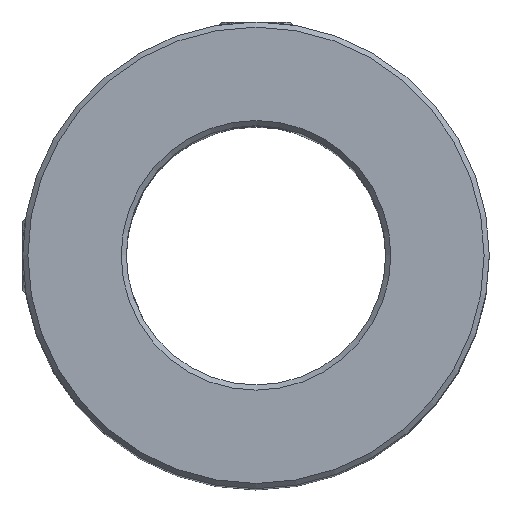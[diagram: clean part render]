
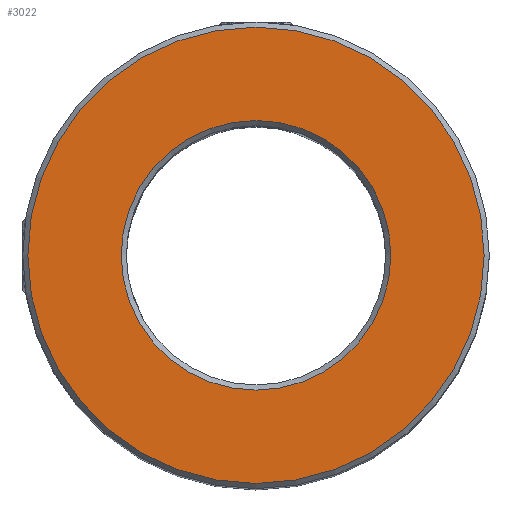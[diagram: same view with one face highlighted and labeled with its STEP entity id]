
A CAD part, top view. The second image highlights one B-rep face of the part: STEP entity #3022.
In plain terms, the highlighted planar face has unit normal (0, 0, 1).
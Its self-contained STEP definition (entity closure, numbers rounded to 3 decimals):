
#1416 = DIRECTION ( 'NONE',  ( 1., 0., 0. ) ) ;
#1442 = AXIS2_PLACEMENT_3D ( 'NONE', #5595, #7732, #1416 ) ;
#1627 = EDGE_CURVE ( 'NONE', #2396, #2396, #3932, .T. ) ;
#1944 = EDGE_LOOP ( 'NONE', ( #8422 ) ) ;
#2396 = VERTEX_POINT ( 'NONE', #4294 ) ;
#2638 = EDGE_CURVE ( 'NONE', #5463, #5463, #4667, .T. ) ;
#2853 = AXIS2_PLACEMENT_3D ( 'NONE', #8089, #7262, #8004 ) ;
#3022 = ADVANCED_FACE ( 'NONE', ( #5180, #7354 ), #5268, .T. ) ;
#3932 = CIRCLE ( 'NONE', #1442, 13. ) ;
#4294 = CARTESIAN_POINT ( 'NONE',  ( 13., 0., 37.5 ) ) ;
#4667 = CIRCLE ( 'NONE', #5857, 22. ) ;
#4819 = ORIENTED_EDGE ( 'NONE', *, *, #1627, .T. ) ;
#5180 = FACE_BOUND ( 'NONE', #6024, .T. ) ;
#5268 = PLANE ( 'NONE',  #2853 ) ;
#5463 = VERTEX_POINT ( 'NONE', #6853 ) ;
#5595 = CARTESIAN_POINT ( 'NONE',  ( 0., 0., 37.5 ) ) ;
#5633 = CARTESIAN_POINT ( 'NONE',  ( 0., 0., 37.5 ) ) ;
#5825 = DIRECTION ( 'NONE',  ( 0., 0., 1. ) ) ;
#5857 = AXIS2_PLACEMENT_3D ( 'NONE', #5633, #5825, #8444 ) ;
#6024 = EDGE_LOOP ( 'NONE', ( #4819 ) ) ;
#6853 = CARTESIAN_POINT ( 'NONE',  ( 22., 0., 37.5 ) ) ;
#7262 = DIRECTION ( 'NONE',  ( 0., 0., 1. ) ) ;
#7354 = FACE_OUTER_BOUND ( 'NONE', #1944, .T. ) ;
#7732 = DIRECTION ( 'NONE',  ( 0., 0., -1. ) ) ;
#8004 = DIRECTION ( 'NONE',  ( 1., 0., 0. ) ) ;
#8089 = CARTESIAN_POINT ( 'NONE',  ( 0., 0., 37.5 ) ) ;
#8422 = ORIENTED_EDGE ( 'NONE', *, *, #2638, .T. ) ;
#8444 = DIRECTION ( 'NONE',  ( 1., 0., 0. ) ) ;
